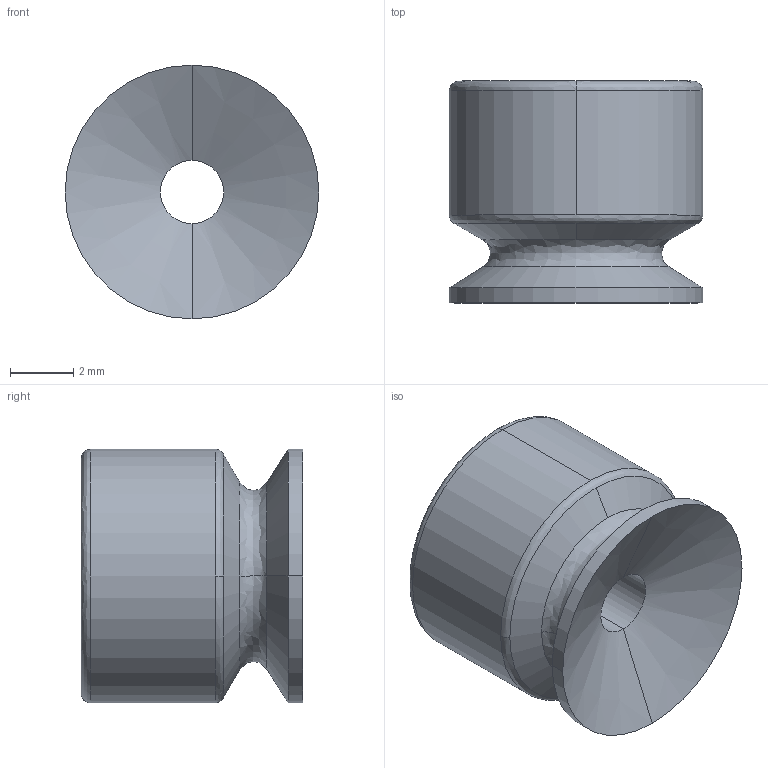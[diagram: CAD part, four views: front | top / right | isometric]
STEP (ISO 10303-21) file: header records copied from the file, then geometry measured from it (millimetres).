
FILE_DESCRIPTION (( 'STEP AP214' ), '1' );
FILE_NAME ('PFG-8.STEP', '2023-03-07T05:47:36', ( 'Windows User' ), ( 'P R C' ), 'SwSTEP 2.0', 'SolidWorks 2019', '' );
FILE_SCHEMA (( 'AUTOMOTIVE_DESIGN' ));
Length unit declared in the file: millimetre
Products named in the file (1): PFG-8
Bounding box: 8 x 7 x 8 mm (x, y, z)
Volume: 198 mm3; surface area: 389.3 mm2
Topology: 1 solids, 1 shells, 31 faces, 74 edges, 46 vertices
Faces by surface type: bspline 12, cylinder 10, cone 6, plane 3
Entity records: 1388 total; most frequent: CARTESIAN_POINT 700, ORIENTED_EDGE 148, DIRECTION 132, EDGE_CURVE 74, AXIS2_PLACEMENT_3D 58, VERTEX_POINT 46, CIRCLE 38, EDGE_LOOP 34
